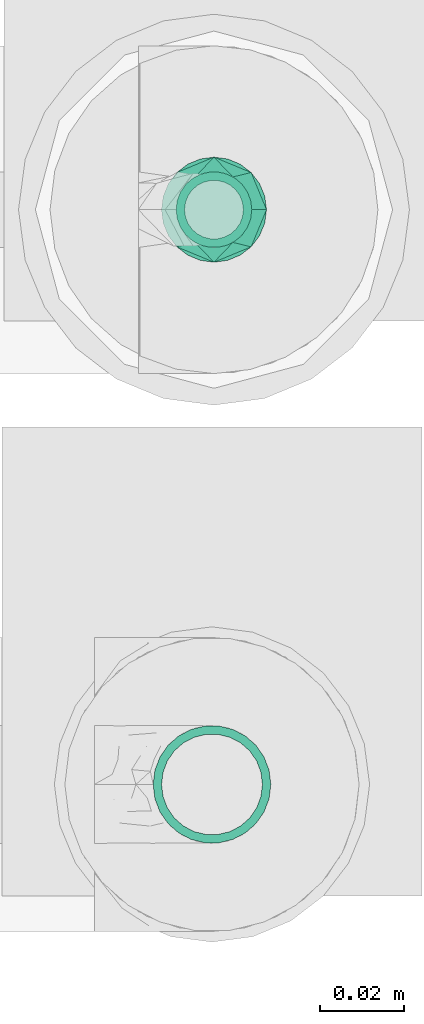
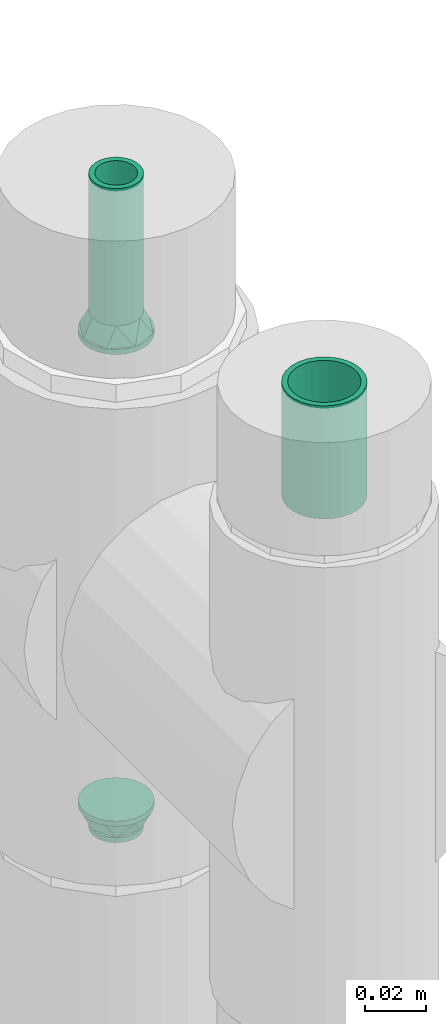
# One storey, part 47 of 83: 2 flow fittings, 2 flow segments.
"""IFC2X3 building model written with IfcOpenShell, lengths in millimetres."""

import ifcopenshell
import ifcopenshell.guid

model = None  # the IFC model being written
_history = None  # IfcOwnerHistory: only IFC2X3 demands one
_inside = {}  # id of a spatial element -> (the spatial element, [elements in it])
_under = {}  # id of a project, library or spatial element -> (it, [spatial elements below it])
_declared = {}  # id of a project -> (the project, [libraries it declares])
_typed = {}  # id of a type object -> (the type object, [elements of that type])
_made_of = {}  # id of a material, layer set ... -> (it, [elements and type objects made of it])


def new_model(schema):
    """Start an empty IFC model of exactly this schema.

    Asked for "IFC4X3", IfcOpenShell would pick the latest addendum, in which some entities
    have other attributes; the version numbers below select the first issue.
    IFC2X3 requires an IfcOwnerHistory on every rooted entity: one is made here for all.
    """
    global model, _history
    if schema == "IFC4X3":
        model = ifcopenshell.file(schema_version=(4, 3, 0, 0))
    else:
        model = ifcopenshell.file(schema=schema)
    _inside.clear()
    _under.clear()
    _declared.clear()
    _typed.clear()
    _made_of.clear()
    _history = None
    if model.schema == "IFC2X3":
        org = make("IfcOrganization", Name="unknown")
        user = make(
            "IfcPersonAndOrganization",
            ThePerson=make("IfcPerson", FamilyName="unknown"),
            TheOrganization=org,
        )
        app = make(
            "IfcApplication",
            ApplicationDeveloper=org,
            Version="unknown",
            ApplicationFullName="unknown",
            ApplicationIdentifier="unknown",
        )
        _history = make(
            "IfcOwnerHistory",
            OwningUser=user,
            OwningApplication=app,
            ChangeAction="ADDED",
            CreationDate=0,
        )
    return model


def make(cls, **values):
    """One entity of the class cls with the attributes given. An attribute that is None is left unset."""
    return model.create_entity(
        cls, **{name: value for name, value in values.items() if value is not None}
    )


def entity(cls, *values):
    """Any entity or typed value of the class cls, its attributes in the order of the schema. None: left unset."""
    e = model.create_entity(cls)
    for i, value in enumerate(values):
        if value is not None:
            e[i] = value
    return e


def rooted(cls, **values):
    """An entity with a GlobalId (a new one), such as an element, a storey or a relation."""
    return make(cls, GlobalId=ifcopenshell.guid.new(), OwnerHistory=_history, **values)


def si_unit(unit_type, name, prefix=None):
    """IfcSIUnit, for example si_unit("LENGTHUNIT", "METRE", prefix="MILLI")."""
    return make("IfcSIUnit", UnitType=unit_type, Prefix=prefix, Name=name)


def converted_unit(unit_type, name, factor, base, dimensions=None, offset=None):
    """IfcConversionBasedUnit, such as the inch: factor (a typed value) times the base unit."""
    return make(
        "IfcConversionBasedUnit"
        if offset is None
        else "IfcConversionBasedUnitWithOffset",
        ConversionOffset=offset,
        Dimensions=None
        if dimensions is None
        else entity("IfcDimensionalExponents", *dimensions),
        UnitType=unit_type,
        Name=name,
        ConversionFactor=make(
            "IfcMeasureWithUnit", ValueComponent=factor, UnitComponent=base
        ),
    )


def derived_unit(unit_type, elements):
    """IfcDerivedUnit: a product of units, each with its exponent."""
    return make(
        "IfcDerivedUnit",
        Elements=[
            make("IfcDerivedUnitElement", Unit=unit, Exponent=power)
            for unit, power in elements
        ],
        UnitType=unit_type,
    )


def assignment(units):
    """IfcUnitAssignment: the units of a project."""
    return None if units is None else make("IfcUnitAssignment", Units=units)


def point(xyz):
    """IfcCartesianPoint."""
    return None if xyz is None else make("IfcCartesianPoint", Coordinates=xyz)


def direction(xyz):
    """IfcDirection."""
    return None if xyz is None else make("IfcDirection", DirectionRatios=xyz)


def frame(location, z_axis=None, x_axis=None):
    """IfcAxis2Placement3D, a coordinate frame: its origin and axes. An axis left out is left unset."""
    return make(
        "IfcAxis2Placement3D",
        Location=point(location),
        Axis=direction(z_axis),
        RefDirection=direction(x_axis),
    )


def frame_2d(location, x_axis=None):
    """IfcAxis2Placement2D, a coordinate frame in the plane: its origin and x axis."""
    return make(
        "IfcAxis2Placement2D", Location=point(location), RefDirection=direction(x_axis)
    )


def origin_with_axes():
    """The frame at (0, 0, 0) with the z axis (0, 0, 1) and the x axis (1, 0, 0) written out."""
    return frame((0.0, 0.0, 0.0), z_axis=(0.0, 0.0, 1.0), x_axis=(1.0, 0.0, 0.0))


def origin_2d_with_axis():
    """The frame at (0, 0) in the plane with the x axis (1, 0) written out."""
    return frame_2d((0.0, 0.0), x_axis=(1.0, 0.0))


def place(relative_to, where):
    """IfcLocalPlacement: puts the frame where relative to a parent placement (None: the world)."""
    return make(
        "IfcLocalPlacement", PlacementRelTo=relative_to, RelativePlacement=where
    )


def context(
    kind, dimensions, precision=None, world=None, true_north=None, identifier=None
):
    """IfcGeometricRepresentationContext, for example the 3D "Model" context."""
    return make(
        "IfcGeometricRepresentationContext",
        ContextIdentifier=identifier,
        ContextType=kind,
        CoordinateSpaceDimension=dimensions,
        Precision=precision,
        WorldCoordinateSystem=world,
        TrueNorth=true_north,
    )


def subcontext(parent, identifier, kind, view, scale=None):
    """IfcGeometricRepresentationSubContext, for example "Body" below "Model"."""
    return make(
        "IfcGeometricRepresentationSubContext",
        ContextIdentifier=identifier,
        ContextType=kind,
        ParentContext=parent,
        TargetScale=scale,
        TargetView=view,
    )


def project(units=None, contexts=None):
    """IfcProject with its units and contexts."""
    return rooted(
        "IfcProject",
        Name="project",
        RepresentationContexts=contexts,
        UnitsInContext=assignment(units),
    )


def spatial(cls, under=None, at=None, **own):
    """A site, building, storey or space (cls), placed at a placement, below another one or the project."""
    s = rooted(cls, ObjectPlacement=at, **own)
    if under is not None:
        _under.setdefault(under.id(), (under, []))[1].append(s)
    return s


def profile(cls, at=None, kind="AREA", **sizes):
    """A parametric profile (cls). Its sizes go by their IFC names, for example OverallWidth=200.0."""
    return make(cls, ProfileType=kind, Position=at, **sizes)


def hollow_circle(**sizes):
    """IfcCircleHollowProfileDef."""
    return profile("IfcCircleHollowProfileDef", **sizes)


def extrude(swept, where, along, depth):
    """IfcExtrudedAreaSolid: the profile swept, set in the frame where, extruded along a direction by depth."""
    return make(
        "IfcExtrudedAreaSolid",
        SweptArea=swept,
        Position=where,
        ExtrudedDirection=direction(along),
        Depth=depth,
    )


def faces_of(points, faces, orient=None, outer=None):
    """IfcFace entities. A face is a list of loops; a loop is a list of indices into points, from 0.

    orient and outer hold one flag for each loop. By default every Orientation is true, the
    first loop of a face is its IfcFaceOuterBound and the others are IfcFaceBound.
    """
    made = []
    for i, loops in enumerate(faces):
        bounds = []
        for j, loop in enumerate(loops):
            is_outer = j == 0 if outer is None else outer[i][j]
            bounds.append(
                make(
                    "IfcFaceOuterBound" if is_outer else "IfcFaceBound",
                    Bound=make("IfcPolyLoop", Polygon=[points[k] for k in loop]),
                    Orientation=True if orient is None else orient[i][j],
                )
            )
        made.append(make("IfcFace", Bounds=bounds))
    return made


def open_shell(faces, orient=None, outer=None):
    """The faces of one IfcOpenShell. surface_model builds it on its shared points."""
    return ("IfcOpenShell", faces, orient, outer)


def surface_model(cls, points, shells):
    """IfcFaceBasedSurfaceModel or IfcShellBasedSurfaceModel (cls): surfaces that need not close."""
    shared = [point(p) for p in points]
    made = [make(c, CfsFaces=faces_of(shared, fs, o, b)) for c, fs, o, b in shells]
    if cls == "IfcFaceBasedSurfaceModel":
        return make(cls, FbsmFaces=made)
    return make(cls, SbsmBoundary=made)


def shape(context_of_items, identifier, shape_type, items):
    """IfcShapeRepresentation: the items that make up one representation, for example the "Body"."""
    return make(
        "IfcShapeRepresentation",
        ContextOfItems=context_of_items,
        RepresentationIdentifier=identifier,
        RepresentationType=shape_type,
        Items=items,
    )


def source(mapping_origin, context_of_items, identifier, shape_type, items):
    """IfcRepresentationMap: a shape defined once, which mapped items show again and again."""
    return make(
        "IfcRepresentationMap",
        MappingOrigin=mapping_origin,
        MappedRepresentation=shape(context_of_items, identifier, shape_type, items),
    )


def transform(
    local_origin,
    x_axis=None,
    y_axis=None,
    z_axis=None,
    scale=None,
    scale2=None,
    scale3=None,
    uniform=True,
):
    """IfcCartesianTransformationOperator3D, or its non-uniform kind. x_axis, y_axis, z_axis: its Axis1, 2, 3."""
    if uniform:
        return make(
            "IfcCartesianTransformationOperator3D",
            Axis1=direction(x_axis),
            Axis2=direction(y_axis),
            LocalOrigin=point(local_origin),
            Scale=scale,
            Axis3=direction(z_axis),
        )
    return make(
        "IfcCartesianTransformationOperator3DnonUniform",
        Axis1=direction(x_axis),
        Axis2=direction(y_axis),
        LocalOrigin=point(local_origin),
        Scale=scale,
        Axis3=direction(z_axis),
        Scale2=scale2,
        Scale3=scale3,
    )


def mapped(mapping_source, mapping_target):
    """IfcMappedItem: shows the shape of a source again, moved by a transform."""
    return make(
        "IfcMappedItem", MappingSource=mapping_source, MappingTarget=mapping_target
    )


def made_of(thing, what):
    """Note that an element or type object is made of a material, layer set ...; save() writes the relation."""
    if what is not None:
        _made_of.setdefault(what.id(), (what, []))[1].append(thing)
    return thing


def type_object(cls, material=None, **own):
    """A type object (cls), such as IfcWallType, which elements share."""
    return made_of(rooted(cls, **own), material)


def element(
    cls,
    number,
    at=None,
    inside=None,
    cuts=None,
    type_object=None,
    material=None,
    context=None,
    identifier="Body",
    shape_type=None,
    held_by="IfcProductDefinitionShape",
    body=None,
    shapes=None,
    **own,
):
    """One element of the class cls, such as IfcWall. Its Tag is "e" and its number.

    at: its placement. inside: the storey or other place that contains it. cuts: it is an
    opening in that element (IfcRelVoidsElement). A single representation is given by context,
    identifier, shape_type and body (its items); several are given by shapes. held_by: the class
    of the entity that holds the representations. save() writes the other relations.
    """
    e = rooted(cls, Tag="e%d" % number, ObjectPlacement=at, **own)
    if body is not None:
        shapes = [shape(context, identifier, shape_type, body)]
    if shapes is not None:
        e.Representation = make(held_by, Representations=shapes)
    if inside is not None:
        _inside.setdefault(inside.id(), (inside, []))[1].append(e)
    if cuts is not None:
        rooted(
            "IfcRelVoidsElement", RelatingBuildingElement=cuts, RelatedOpeningElement=e
        )
    if type_object is not None:
        _typed.setdefault(type_object.id(), (type_object, []))[1].append(e)
    return made_of(e, material)


def aggregate(whole, parts):
    """IfcRelAggregates: a whole, such as a stair, and the parts it consists of."""
    return rooted("IfcRelAggregates", RelatingObject=whole, RelatedObjects=parts)


def save(model, path):
    """Write the relations noted so far, then the file.

    IfcRelAggregates (storeys below a building ...), IfcRelContainedInSpatialStructure (elements
    in a storey), IfcRelDefinesByType, IfcRelAssociatesMaterial and IfcRelDeclares: one each for
    every whole, place, type object, material and project.
    """
    for whole, parts in _under.values():
        aggregate(whole, parts)
    for where, things in _inside.values():
        rooted(
            "IfcRelContainedInSpatialStructure",
            RelatedElements=things,
            RelatingStructure=where,
        )
    for kind, things in _typed.values():
        rooted("IfcRelDefinesByType", RelatedObjects=things, RelatingType=kind)
    for what, things in _made_of.values():
        rooted("IfcRelAssociatesMaterial", RelatedObjects=things, RelatingMaterial=what)
    for by, libraries in _declared.values():
        rooted("IfcRelDeclares", RelatingContext=by, RelatedDefinitions=libraries)
    model.write(path)


model = new_model("IFC2X3")

# Units and contexts
model_context = context("Model", 3, precision=0.01, world=frame((0.0, 4.29681676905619e-09, 0.0)), true_north=direction((4.01073788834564e-13, 1.0)))
plan_context = context("Plan", 3, precision=0.01, world=frame((0.0, 4.29681676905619e-09, 0.0)), true_north=direction((4.01073788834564e-13, 1.0)))
body_context = subcontext(model_context, "Body", "Model", "MODEL_VIEW")
ifc_project = project(units=[converted_unit("PLANEANGLEUNIT", "DEGREE", entity("IfcPositiveLengthMeasure", 0.0174532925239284), si_unit("PLANEANGLEUNIT", "RADIAN"), dimensions=[0, 0, 0, 0, 0, 0, 0]), si_unit("AREAUNIT", "SQUARE_METRE"), si_unit("LENGTHUNIT", "METRE", prefix="MILLI"), si_unit("MASSUNIT", "GRAM", prefix="KILO"), si_unit("POWERUNIT", "WATT"), si_unit("PRESSUREUNIT", "PASCAL"), si_unit("FORCEUNIT", "NEWTON", prefix="KILO"), si_unit("ELECTRICVOLTAGEUNIT", "VOLT"), si_unit("ELECTRICCURRENTUNIT", "AMPERE"), si_unit("THERMODYNAMICTEMPERATUREUNIT", "DEGREE_CELSIUS"), si_unit("TIMEUNIT", "SECOND"), si_unit("VOLUMEUNIT", "CUBIC_METRE"), derived_unit("LINEARVELOCITYUNIT", [(si_unit("LENGTHUNIT", "METRE"), 1), (si_unit("TIMEUNIT", "SECOND"), -1)]), derived_unit("VOLUMETRICFLOWRATEUNIT", [(si_unit("VOLUMEUNIT", "CUBIC_METRE"), 1), (si_unit("TIMEUNIT", "SECOND"), -1)]), derived_unit("THERMALTRANSMITTANCEUNIT", [(si_unit("POWERUNIT", "WATT"), 1), (si_unit("THERMODYNAMICTEMPERATUREUNIT", "KELVIN"), -1), (si_unit("AREAUNIT", "SQUARE_METRE"), -1)]), derived_unit("SOUNDPRESSUREUNIT", [(si_unit("PRESSUREUNIT", "PASCAL"), 1)])], contexts=[model_context, plan_context])

# Site, building, storey
site_placement = place(None, frame((0.0, -4.29681676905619e-09, 0.0), z_axis=(0.0, 0.0, 1.0), x_axis=(1.0, 0.0, 0.0)))
site = spatial("IfcSite", under=ifc_project, at=site_placement, Name="ENGM", CompositionType="ELEMENT")
building_placement = place(site_placement, frame((0.0, 4.29681676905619e-09, 0.0), z_axis=(0.0, 0.0, 1.0), x_axis=(1.0, 0.0, 0.0)))
building = spatial("IfcBuilding", under=site, at=building_placement, Name="TI", CompositionType="ELEMENT")
storey_placement = place(building_placement, frame((0.0, 0.0, 204000.0), z_axis=(0.0, 0.0, 1.0), x_axis=(1.0, 0.0, 0.0)))
storey = spatial("IfcBuildingStorey", under=building, at=storey_placement, Name="Nivå D", CompositionType="ELEMENT", Elevation=204000.0)

# Flow fittings
pipe_fitting_type = type_object("IfcPipeFittingType", Name="magi_pipe_cu_reducer_centric_short_001", PredefinedType="TRANSITION")
shared_shape_1 = source(origin_with_axes(), body_context, "Body", "SurfaceModel", [
    surface_model("IfcShellBasedSurfaceModel", [(0.0, -9.0, 0.0), (0.0, -4.5, 7.79423), (0.0, -4.5, -7.79423), (-2.0, 0.0, 9.0), (-2.0, 2.32937, 8.69333), (-2.0, 4.5, 7.79423), (-2.0, 6.36396, 6.36396), (-2.0, -9.0, 0.0), (-2.0, -8.69333, -2.32937), (-2.0, 7.79423, 4.5), (-2.0, -2.32937, 8.69333), (-2.0, -6.36396, 6.36396), (-2.0, -4.5, 7.79423), (-2.0, -8.69333, 2.32937), (-2.0, -7.79423, 4.5), (-2.0, 8.69333, 2.32937), (-2.0, 8.69333, -2.32937), (-2.0, 6.36396, -6.36396), (-2.0, 7.79423, -4.5), (-2.0, 4.5, -7.79423), (-2.0, 2.32937, -8.69333), (-2.0, -4.5, -7.79423), (-2.0, -6.36396, -6.36396), (-2.0, -7.79423, -4.5), (-2.0, 0.0, -9.0), (-2.0, -2.32937, -8.69333), (-2.0, 9.0, 0.0), (0.0, 4.5, -7.79423), (0.0, -6.36396, -6.36396), (0.0, 2.32937, -8.69333), (0.0, 8.69333, -2.32937), (0.0, 6.36396, -6.36396), (0.0, 7.79423, -4.5), (0.0, 7.79423, 4.5), (0.0, -8.69333, -2.32937), (0.0, 0.0, -9.0), (0.0, -2.32937, -8.69333), (0.0, -7.79423, -4.5), (0.0, 9.0, 0.0), (0.0, 8.69333, 2.32937), (0.0, 0.0, 9.0), (0.0, 6.36396, 6.36396), (0.0, 4.5, 7.79423), (0.0, 2.32937, 8.69333), (0.0, -6.36396, 6.36396), (0.0, -8.69333, 2.32937), (0.0, -7.79423, 4.5), (0.0, -2.32937, 8.69333), (9.0, -8.83883, -8.83883), (9.0, -12.07407, -3.23524), (9.0, -10.82532, -6.25), (9.0, -6.25, -10.82532), (9.0, 12.07407, 3.23524), (9.0, 10.82532, 6.25), (9.0, 8.83883, 8.83883), (9.0, 3.23524, 12.07407), (9.0, 6.25, 10.82532), (9.0, 0.0, 12.5), (9.0, -8.83883, 8.83883), (9.0, -12.07407, 3.23524), (9.0, -10.82532, 6.25), (9.0, -3.23524, 12.07407), (9.0, -6.25, 10.82532), (7.0, 8.83883, 8.83883), (7.0, 10.82532, 6.25), (7.0, 12.07407, 3.23524), (7.0, 3.23524, -12.07407), (7.0, 12.07407, -3.23524), (7.0, 10.82532, -6.25), (7.0, 8.83883, -8.83883), (7.0, 6.25, -10.82532), (7.0, -12.07407, -3.23524), (7.0, -8.83883, -8.83883), (7.0, -10.82532, -6.25), (7.0, -6.25, -10.82532), (7.0, 12.5, 0.0), (7.0, -12.5, 0.0), (9.0, -3.23524, -12.07407), (7.0, -3.23524, -12.07407), (9.0, -12.5, 0.0), (9.0, 0.0, -12.5), (7.0, 0.0, -12.5), (9.0, 3.23524, -12.07407), (9.0, 6.25, -10.82532), (9.0, 10.82532, -6.25), (9.0, 8.83883, -8.83883), (9.0, 12.07407, -3.23524), (9.0, 12.5, 0.0), (7.0, 6.25, 10.82532), (7.0, 3.23524, 12.07407), (7.0, 0.0, 12.5), (7.0, -3.23524, 12.07407), (7.0, -6.25, 10.82532), (7.0, -8.83883, 8.83883), (7.0, -10.82532, 6.25), (7.0, -12.07407, 3.23524)], [open_shell([[[0, 1, 2]], [[3, 4, 5]], [[3, 5, 6]], [[7, 3, 8]], [[9, 3, 6]], [[9, 8, 3]], [[10, 11, 12]], [[10, 3, 11]], [[11, 13, 14]], [[13, 11, 7]], [[3, 7, 11]], [[9, 15, 16]], [[8, 9, 16]], [[17, 16, 18]], [[16, 19, 8]], [[19, 16, 17]], [[20, 21, 19]], [[8, 22, 23]], [[8, 19, 22]], [[21, 24, 25]], [[21, 22, 19]], [[24, 21, 20]], [[16, 15, 26]], [[27, 28, 29]], [[30, 27, 31]], [[28, 27, 30]], [[30, 31, 32]], [[33, 34, 30]], [[35, 2, 36]], [[2, 35, 28]], [[28, 34, 37]], [[28, 35, 29]], [[30, 34, 28]], [[30, 38, 39]], [[0, 34, 33]], [[40, 33, 41]], [[42, 43, 40]], [[42, 40, 41]], [[44, 33, 40]], [[45, 44, 46]], [[44, 45, 0]], [[44, 47, 1]], [[44, 0, 33]], [[40, 47, 44]], [[33, 30, 39]], [[8, 34, 7]], [[23, 37, 8]], [[2, 22, 21]], [[23, 22, 28]], [[36, 21, 25]], [[8, 37, 34]], [[34, 0, 7]], [[36, 2, 21]], [[28, 22, 2]], [[28, 37, 23]], [[35, 36, 25]], [[25, 24, 35]], [[20, 29, 24]], [[19, 27, 20]], [[32, 17, 18]], [[19, 17, 31]], [[30, 18, 16]], [[19, 31, 27]], [[27, 29, 20]], [[38, 30, 16]], [[32, 18, 30]], [[32, 31, 17]], [[26, 38, 16]], [[24, 29, 35]], [[15, 39, 26]], [[9, 33, 15]], [[42, 6, 5]], [[9, 6, 41]], [[43, 5, 4]], [[15, 33, 39]], [[39, 38, 26]], [[43, 42, 5]], [[41, 6, 42]], [[41, 33, 9]], [[40, 43, 4]], [[4, 3, 40]], [[10, 47, 3]], [[12, 1, 10]], [[46, 11, 14]], [[12, 11, 44]], [[45, 14, 13]], [[12, 44, 1]], [[1, 47, 10]], [[0, 45, 13]], [[46, 14, 45]], [[46, 44, 11]], [[7, 0, 13]], [[3, 47, 40]], [[38, 1, 42]], [[38, 27, 2]], [[38, 2, 1]], [[48, 49, 50]], [[49, 48, 51]], [[52, 53, 54]], [[55, 54, 56]], [[52, 57, 58]], [[59, 58, 60]], [[58, 61, 62]], [[57, 61, 58]], [[63, 64, 65]], [[66, 67, 68]], [[69, 70, 66]], [[69, 66, 68]], [[71, 72, 73]], [[72, 71, 74]], [[67, 65, 75]], [[71, 49, 76]], [[73, 50, 71]], [[51, 72, 74]], [[73, 72, 48]], [[77, 74, 78]], [[71, 50, 49]], [[49, 79, 76]], [[77, 51, 74]], [[48, 72, 51]], [[48, 50, 73]], [[80, 77, 78]], [[78, 81, 80]], [[66, 82, 81]], [[70, 83, 66]], [[84, 69, 68]], [[70, 69, 85]], [[86, 68, 67]], [[70, 85, 83]], [[83, 82, 66]], [[87, 86, 67]], [[84, 68, 86]], [[84, 85, 69]], [[75, 87, 67]], [[81, 82, 80]], [[65, 52, 75]], [[64, 53, 65]], [[56, 63, 88]], [[64, 63, 54]], [[55, 88, 89]], [[65, 53, 52]], [[52, 87, 75]], [[55, 56, 88]], [[54, 63, 56]], [[54, 53, 64]], [[57, 55, 89]], [[89, 90, 57]], [[91, 61, 90]], [[92, 62, 91]], [[60, 93, 94]], [[92, 93, 58]], [[59, 94, 95]], [[92, 58, 62]], [[62, 61, 91]], [[79, 59, 95]], [[60, 94, 59]], [[60, 58, 93]], [[76, 79, 95]], [[90, 61, 57]], [[82, 83, 85]], [[80, 51, 77]], [[69, 75, 63]], [[76, 72, 69]], [[81, 69, 72]], [[0, 2, 72]], [[72, 76, 0]], [[2, 81, 72]], [[27, 38, 69]], [[69, 81, 27]], [[75, 69, 38]], [[27, 81, 2]], [[38, 42, 63]], [[63, 75, 38]], [[42, 90, 63]], [[1, 0, 93]], [[93, 90, 1]], [[76, 93, 0]], [[1, 90, 42]], [[82, 85, 84]], [[82, 86, 80]], [[86, 82, 84]], [[80, 86, 87]], [[80, 87, 51]], [[51, 59, 49]], [[51, 87, 52]], [[52, 54, 55]], [[55, 57, 52]], [[79, 49, 59]], [[51, 58, 59]], [[51, 52, 58]], [[89, 95, 90]], [[63, 89, 88]], [[89, 63, 95]], [[63, 71, 95]], [[92, 94, 93]], [[92, 91, 90]], [[94, 92, 90]], [[90, 95, 94]], [[95, 71, 76]], [[74, 63, 65]], [[67, 78, 65]], [[78, 67, 66]], [[74, 71, 63]], [[78, 74, 65]], [[66, 81, 78]], [[69, 63, 90]], [[90, 93, 76]], [[76, 69, 90]]])]),
])
for number, where, z_axis, x_axis, name in (
    (1, (609131.9743, 691772.72914, 7089.33984), (0.0, 1.0, 0.0), (0.0, 0.0, 1.0), "magi_pipe_cu_reducer_centric_short_001"),
    (2, (609131.9743, 691772.72914, 7293.33984), (0.0, 1.0, 0.0), (0.0, 0.0, -1.0), "magi_pipe_cu_reducer_centric_short_001"),
):
    element("IfcFlowFitting", number, at=place(storey_placement, frame(where, z_axis=z_axis, x_axis=x_axis)), inside=storey, type_object=pipe_fitting_type, Name=name, context=body_context, shape_type="MappedRepresentation", body=[
        mapped(shared_shape_1, transform((0.0, 0.0, 0.0), scale=1.0)),
    ])

# Flow segments
pipe_segment_type = type_object("IfcPipeSegmentType", Name="Kobberrør", PredefinedType="RIGIDSEGMENT")
shared_shape_2 = source(origin_with_axes(), body_context, "Body", "SweptSolid", [
    extrude(hollow_circle(Radius=14.0, WallThickness=2.0, at=origin_2d_with_axis()), frame((0.0, 0.0, 0.0), z_axis=(1.0, 0.0, 0.0), x_axis=(0.0, 1.0, 0.0)), (0.0, 0.0, 1.0), 45.1),
])
flow_segment_1_placement = place(storey_placement, frame((609131.50429, 691635.97914, 7302.94321), z_axis=(0.0, 1.0, 0.0), x_axis=(0.0, 0.0, 1.0)))
element("IfcFlowSegment", 3, at=flow_segment_1_placement, inside=storey, type_object=pipe_segment_type, Name="Kobberrør", context=body_context, shape_type="MappedRepresentation", body=[
    mapped(shared_shape_2, transform((0.0, 0.0, 0.0), scale=1.0)),
])
shared_shape_3 = source(origin_with_axes(), body_context, "Body", "SweptSolid", [
    extrude(hollow_circle(Radius=9.0, WallThickness=2.0, at=origin_2d_with_axis()), frame((0.0, 0.0, 0.0), z_axis=(1.0, 0.0, 0.0), x_axis=(0.0, 1.0, 0.0)), (0.0, 0.0, 1.0), 54.7),
])
flow_segment_2_placement = place(storey_placement, frame((609131.9743, 691772.72914, 7293.33984), z_axis=(0.0, 1.0, 0.0), x_axis=(0.0, 0.0, 1.0)))
element("IfcFlowSegment", 4, at=flow_segment_2_placement, inside=storey, type_object=pipe_segment_type, Name="Kobberrør", context=body_context, shape_type="MappedRepresentation", body=[
    mapped(shared_shape_3, transform((0.0, 0.0, 0.0), scale=1.0)),
])

save(model, "model.ifc")
